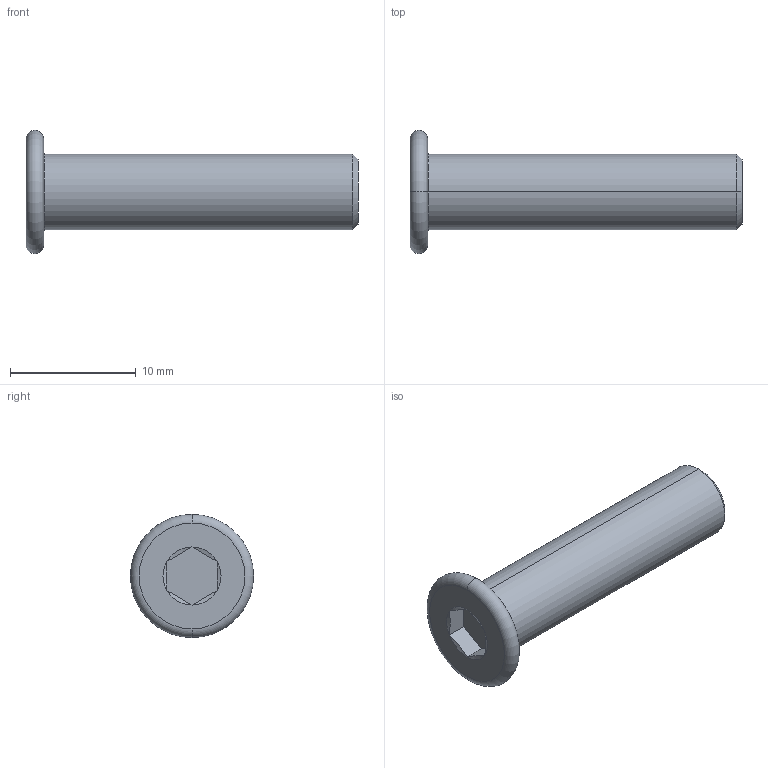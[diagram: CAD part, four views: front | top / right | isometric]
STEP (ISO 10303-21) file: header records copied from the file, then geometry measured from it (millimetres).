
FILE_DESCRIPTION (( 'STEP AP203' ), '1' );
FILE_NAME ('LGD-304M-M6x25.STEP', '2026-08-13T12:51:46', ( '' ), ( '' ), 'SwSTEP 2.0', 'SolidWorks 2020', '' );
FILE_SCHEMA (( 'CONFIG_CONTROL_DESIGN' ));
Length unit declared in the file: millimetre
Products named in the file (1): LGD-304M-M6x25
Bounding box: 26.4 x 9.8 x 9.8 mm (x, y, z)
Volume: 782.5 mm3; surface area: 662.2 mm2
Topology: 1 solids, 1 shells, 24 faces, 44 edges, 24 vertices
Faces by surface type: plane 10, cone 8, torus 4, cylinder 2
Entity records: 673 total; most frequent: CARTESIAN_POINT 119, DIRECTION 110, ORIENTED_EDGE 88, AXIS2_PLACEMENT_3D 47, EDGE_CURVE 44, EDGE_LOOP 26, ADVANCED_FACE 24, FACE_OUTER_BOUND 24
